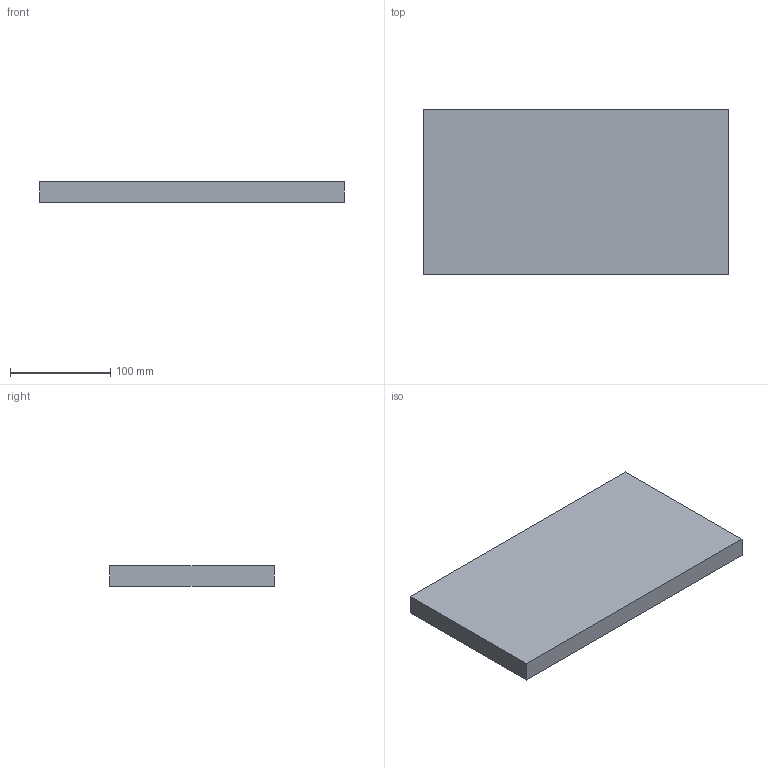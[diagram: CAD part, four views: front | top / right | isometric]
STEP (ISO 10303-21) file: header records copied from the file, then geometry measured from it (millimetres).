
FILE_DESCRIPTION (( 'STEP AP203' ), '1' );
FILE_NAME ('Isolation_Porte.STEP', '2026-06-24T07:29:50', ( '' ), ( '' ), 'SwSTEP 2.0', 'SolidWorks 2024', '' );
FILE_SCHEMA (( 'CONFIG_CONTROL_DESIGN' ));
Length unit declared in the file: millimetre
Products named in the file (1): Isolation_Porte
Bounding box: 304 x 164 x 20 mm (x, y, z)
Volume: 997120 mm3; surface area: 118432 mm2
Topology: 1 solids, 1 shells, 6 faces, 12 edges, 8 vertices
Faces by surface type: plane 6
Entity records: 231 total; most frequent: CARTESIAN_POINT 27, DIRECTION 26, ORIENTED_EDGE 24, VECTOR 12, LINE 12, EDGE_CURVE 12, PERSON_AND_ORGANIZATION 8, VERTEX_POINT 8
